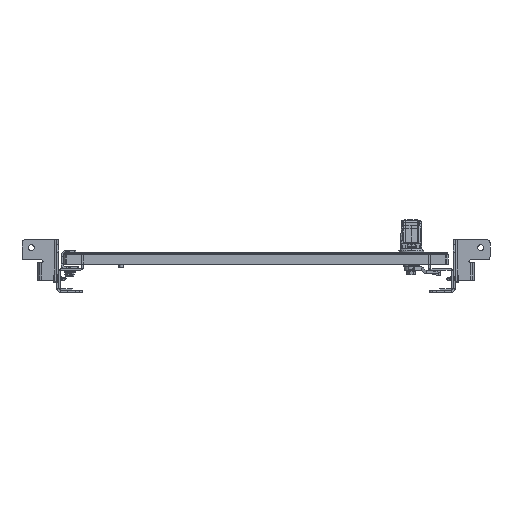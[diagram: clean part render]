
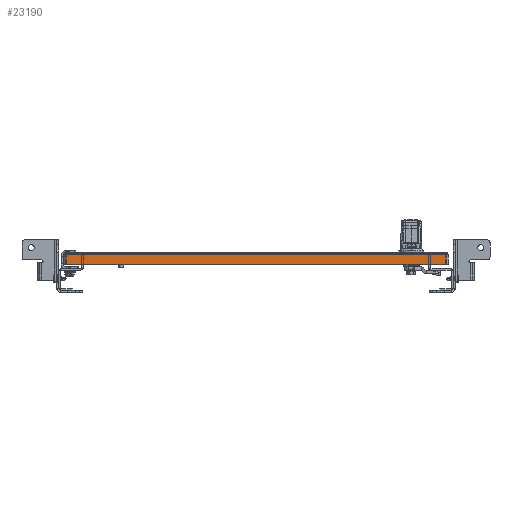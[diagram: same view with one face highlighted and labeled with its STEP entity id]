
A CAD part, front view. The second image highlights one B-rep face of the part: STEP entity #23190.
In plain terms, the highlighted planar face has unit normal (0, -1, 0).
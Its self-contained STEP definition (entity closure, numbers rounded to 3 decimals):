
#1069 = LINE ( 'NONE', #10455, #22231 ) ;
#7818 = VERTEX_POINT ( 'NONE', #12988 ) ;
#10455 = CARTESIAN_POINT ( 'NONE',  ( 231., -1060., 15. ) ) ;
#12988 = CARTESIAN_POINT ( 'NONE',  ( 231., -1060., 12. ) ) ;
#13717 = LINE ( 'NONE', #18401, #25572 ) ;
#14276 = EDGE_CURVE ( 'NONE', #44859, #7818, #1069, .T. ) ;
#15234 = DIRECTION ( 'NONE',  ( 0., 0., 1. ) ) ;
#18401 = CARTESIAN_POINT ( 'NONE',  ( -231., -1060., 15. ) ) ;
#18909 = ORIENTED_EDGE ( 'NONE', *, *, #48051, .T. ) ;
#19510 = ORIENTED_EDGE ( 'NONE', *, *, #41293, .T. ) ;
#19551 = DIRECTION ( 'NONE',  ( 0., 0., 1. ) ) ;
#22231 = VECTOR ( 'NONE', #19551, 1000. ) ;
#23190 = ADVANCED_FACE ( 'NONE', ( #55794 ), #52239, .F. ) ;
#25568 = CARTESIAN_POINT ( 'NONE',  ( -234., -1060., 12. ) ) ;
#25572 = VECTOR ( 'NONE', #32516, 1000. ) ;
#27037 = CARTESIAN_POINT ( 'NONE',  ( -231., -1060., 12. ) ) ;
#29313 = DIRECTION ( 'NONE',  ( 0., 1., 0. ) ) ;
#29611 = CARTESIAN_POINT ( 'NONE',  ( 234., -1060., 15. ) ) ;
#29956 = CARTESIAN_POINT ( 'NONE',  ( -231., -1060., 0. ) ) ;
#30000 = AXIS2_PLACEMENT_3D ( 'NONE', #29611, #29313, #15234 ) ;
#32212 = CARTESIAN_POINT ( 'NONE',  ( 231., -1060., 0. ) ) ;
#32516 = DIRECTION ( 'NONE',  ( 0., 0., -1. ) ) ;
#33271 = EDGE_CURVE ( 'NONE', #34436, #44859, #50676, .T. ) ;
#34124 = LINE ( 'NONE', #25568, #43112 ) ;
#34436 = VERTEX_POINT ( 'NONE', #29956 ) ;
#35132 = ORIENTED_EDGE ( 'NONE', *, *, #33271, .T. ) ;
#38230 = DIRECTION ( 'NONE',  ( -1., 0., 0. ) ) ;
#41293 = EDGE_CURVE ( 'NONE', #7818, #50036, #34124, .T. ) ;
#43112 = VECTOR ( 'NONE', #38230, 1000. ) ;
#44859 = VERTEX_POINT ( 'NONE', #32212 ) ;
#47125 = DIRECTION ( 'NONE',  ( 1., 0., 0. ) ) ;
#47665 = VECTOR ( 'NONE', #47125, 1000. ) ;
#48051 = EDGE_CURVE ( 'NONE', #50036, #34436, #13717, .T. ) ;
#50036 = VERTEX_POINT ( 'NONE', #27037 ) ;
#50316 = ORIENTED_EDGE ( 'NONE', *, *, #14276, .T. ) ;
#50588 = EDGE_LOOP ( 'NONE', ( #35132, #50316, #19510, #18909 ) ) ;
#50676 = LINE ( 'NONE', #50962, #47665 ) ;
#50962 = CARTESIAN_POINT ( 'NONE',  ( 234., -1060., 0. ) ) ;
#52239 = PLANE ( 'NONE',  #30000 ) ;
#55794 = FACE_OUTER_BOUND ( 'NONE', #50588, .T. ) ;
